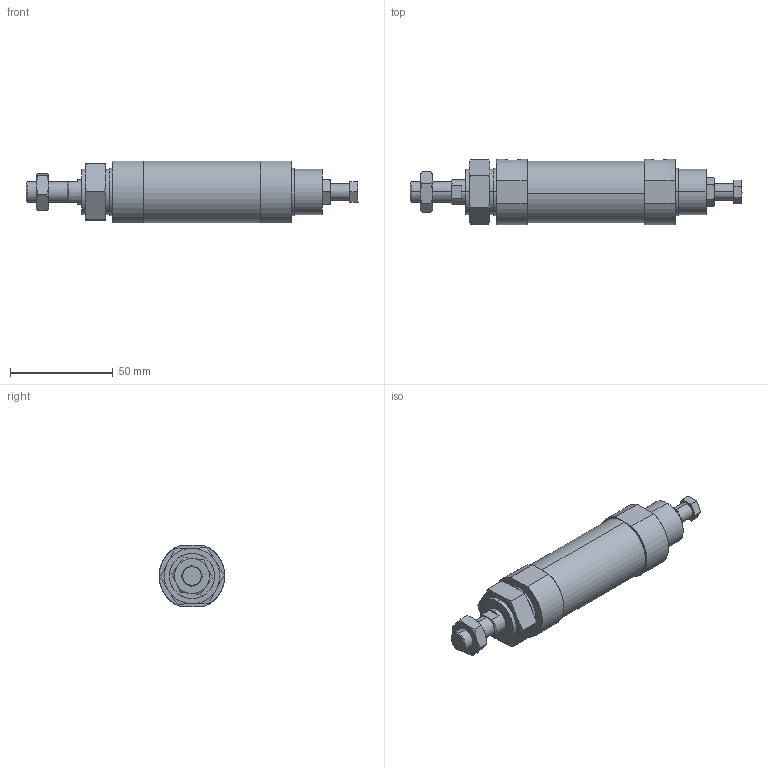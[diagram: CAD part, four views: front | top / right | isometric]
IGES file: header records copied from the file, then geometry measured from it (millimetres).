
Start section: SolidWorks IGES file using analytic representation for surfaces
Global section: file name: C:\Users\Toshiba\Desktop\JGA2-25-25-N.IGS; native system: SolidWorks 2014; preprocessor: SolidWorks 2014; author: Toshiba; date: 160420.130639; units: millimetre
Bounding box: 161.5 x 32 x 30 mm (x, y, z)
Surface area: 20660.5 mm2 (no closed solid volume)
Topology: 0 solids, 0 shells, 124 faces, 2148 edges, 2144 vertices
Faces by surface type: bspline 88, revolution 36
